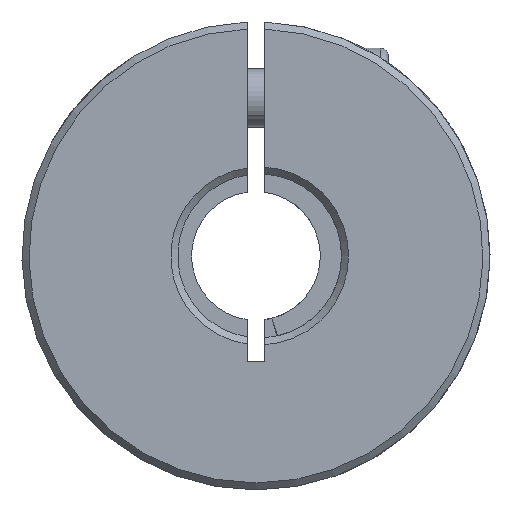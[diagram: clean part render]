
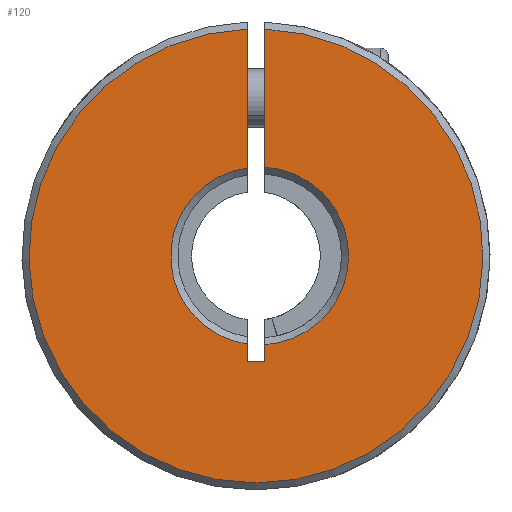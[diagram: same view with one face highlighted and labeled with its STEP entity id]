
A CAD part, front view. The second image highlights one B-rep face of the part: STEP entity #120.
In plain terms, the highlighted planar face has unit normal (0, -1, 0).
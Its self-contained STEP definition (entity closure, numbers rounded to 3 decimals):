
#85 = VECTOR ( 'NONE', #4989, 1000. ) ;
#120 = ADVANCED_FACE ( 'NONE', ( #5798 ), #2949, .F. ) ;
#146 = DIRECTION ( 'NONE',  ( 0., 1., 0. ) ) ;
#217 = CARTESIAN_POINT ( 'NONE',  ( -0.75, -30., 19.385 ) ) ;
#238 = VERTEX_POINT ( 'NONE', #5958 ) ;
#306 = DIRECTION ( 'NONE',  ( -1., 0., 0. ) ) ;
#325 = DIRECTION ( 'NONE',  ( 0., 1., 0. ) ) ;
#363 = VERTEX_POINT ( 'NONE', #4488 ) ;
#426 = CARTESIAN_POINT ( 'NONE',  ( -0.75, -30., -7.525 ) ) ;
#501 = DIRECTION ( 'NONE',  ( 0., 0., 1. ) ) ;
#631 = ORIENTED_EDGE ( 'NONE', *, *, #4881, .T. ) ;
#654 = EDGE_CURVE ( 'NONE', #2185, #5396, #3889, .T. ) ;
#712 = CARTESIAN_POINT ( 'NONE',  ( 0.314, -30., 0. ) ) ;
#724 = VERTEX_POINT ( 'NONE', #1686 ) ;
#847 = LINE ( 'NONE', #5555, #5233 ) ;
#876 = CIRCLE ( 'NONE', #2610, 7.6 ) ;
#956 = EDGE_CURVE ( 'NONE', #4343, #363, #3942, .T. ) ;
#994 = DIRECTION ( 'NONE',  ( 0., 0., 1. ) ) ;
#1017 = DIRECTION ( 'NONE',  ( 0., 1., 0. ) ) ;
#1025 = LINE ( 'NONE', #3058, #4979 ) ;
#1129 = DIRECTION ( 'NONE',  ( 0., 0., 1. ) ) ;
#1151 = ORIENTED_EDGE ( 'NONE', *, *, #956, .T. ) ;
#1264 = CIRCLE ( 'NONE', #4590, 7.6 ) ;
#1476 = ORIENTED_EDGE ( 'NONE', *, *, #654, .T. ) ;
#1488 = EDGE_CURVE ( 'NONE', #5497, #2185, #1264, .T. ) ;
#1503 = DIRECTION ( 'NONE',  ( 0., 0., 1. ) ) ;
#1565 = CARTESIAN_POINT ( 'NONE',  ( 0.75, -30., 7.587 ) ) ;
#1686 = CARTESIAN_POINT ( 'NONE',  ( 0.75, -30., 19.385 ) ) ;
#2134 = ORIENTED_EDGE ( 'NONE', *, *, #2884, .T. ) ;
#2147 = ORIENTED_EDGE ( 'NONE', *, *, #4725, .T. ) ;
#2185 = VERTEX_POINT ( 'NONE', #2197 ) ;
#2197 = CARTESIAN_POINT ( 'NONE',  ( -0.75, -30., 7.525 ) ) ;
#2381 = CARTESIAN_POINT ( 'NONE',  ( 0.314, -30., 0. ) ) ;
#2586 = CARTESIAN_POINT ( 'NONE',  ( 0.75, -30., -7.587 ) ) ;
#2610 = AXIS2_PLACEMENT_3D ( 'NONE', #712, #325, #4448 ) ;
#2691 = DIRECTION ( 'NONE',  ( 0., 0., -1. ) ) ;
#2884 = EDGE_CURVE ( 'NONE', #724, #4416, #847, .T. ) ;
#2949 = PLANE ( 'NONE',  #3758 ) ;
#3007 = EDGE_CURVE ( 'NONE', #363, #238, #1025, .T. ) ;
#3058 = CARTESIAN_POINT ( 'NONE',  ( -0.75, -30., -9. ) ) ;
#3073 = CARTESIAN_POINT ( 'NONE',  ( 0., -30., 0. ) ) ;
#3323 = LINE ( 'NONE', #5202, #4594 ) ;
#3616 = ORIENTED_EDGE ( 'NONE', *, *, #3007, .T. ) ;
#3758 = AXIS2_PLACEMENT_3D ( 'NONE', #3821, #1017, #1503 ) ;
#3821 = CARTESIAN_POINT ( 'NONE',  ( 0., -30., 0. ) ) ;
#3889 = LINE ( 'NONE', #4304, #5991 ) ;
#3942 = LINE ( 'NONE', #3979, #85 ) ;
#3979 = CARTESIAN_POINT ( 'NONE',  ( 0.75, -30., -9. ) ) ;
#4203 = CIRCLE ( 'NONE', #5750, 19.4 ) ;
#4245 = DIRECTION ( 'NONE',  ( 0., 0., 1. ) ) ;
#4304 = CARTESIAN_POINT ( 'NONE',  ( -0.75, -30., -9. ) ) ;
#4343 = VERTEX_POINT ( 'NONE', #2586 ) ;
#4416 = VERTEX_POINT ( 'NONE', #1565 ) ;
#4448 = DIRECTION ( 'NONE',  ( 0., 0., 1. ) ) ;
#4488 = CARTESIAN_POINT ( 'NONE',  ( 0.75, -30., -9. ) ) ;
#4590 = AXIS2_PLACEMENT_3D ( 'NONE', #2381, #146, #4245 ) ;
#4594 = VECTOR ( 'NONE', #501, 1000. ) ;
#4725 = EDGE_CURVE ( 'NONE', #238, #5497, #3323, .T. ) ;
#4881 = EDGE_CURVE ( 'NONE', #4416, #4343, #876, .T. ) ;
#4979 = VECTOR ( 'NONE', #306, 1000. ) ;
#4989 = DIRECTION ( 'NONE',  ( 0., 0., -1. ) ) ;
#5202 = CARTESIAN_POINT ( 'NONE',  ( -0.75, -30., -9. ) ) ;
#5233 = VECTOR ( 'NONE', #2691, 1000. ) ;
#5322 = DIRECTION ( 'NONE',  ( 0., -1., 0. ) ) ;
#5385 = EDGE_CURVE ( 'NONE', #5396, #724, #4203, .T. ) ;
#5396 = VERTEX_POINT ( 'NONE', #217 ) ;
#5497 = VERTEX_POINT ( 'NONE', #426 ) ;
#5498 = EDGE_LOOP ( 'NONE', ( #2134, #631, #1151, #3616, #2147, #5906, #1476, #5713 ) ) ;
#5555 = CARTESIAN_POINT ( 'NONE',  ( 0.75, -30., -9. ) ) ;
#5713 = ORIENTED_EDGE ( 'NONE', *, *, #5385, .T. ) ;
#5750 = AXIS2_PLACEMENT_3D ( 'NONE', #3073, #5322, #1129 ) ;
#5798 = FACE_OUTER_BOUND ( 'NONE', #5498, .T. ) ;
#5906 = ORIENTED_EDGE ( 'NONE', *, *, #1488, .T. ) ;
#5958 = CARTESIAN_POINT ( 'NONE',  ( -0.75, -30., -9. ) ) ;
#5991 = VECTOR ( 'NONE', #994, 1000. ) ;
